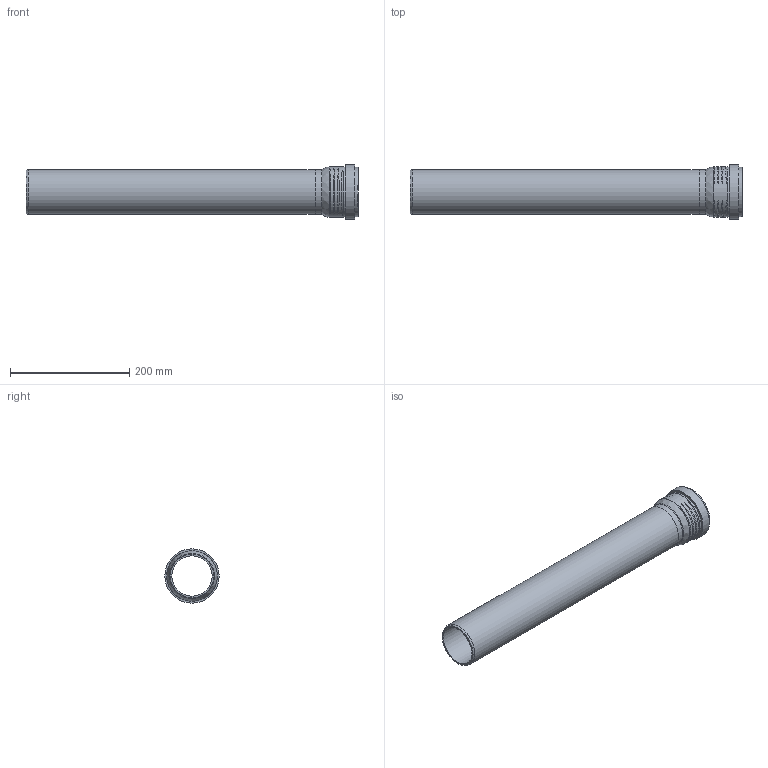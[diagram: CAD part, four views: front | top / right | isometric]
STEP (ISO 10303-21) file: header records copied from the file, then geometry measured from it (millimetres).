
FILE_DESCRIPTION(/* description */ (''),/* implementation_level */ '2;1');
FILE_NAME(/* name */ 'H:\Geberit-Teile\Export\PP_Rohr\stp\393302.stp',/* time_stamp */ '2017-02-13T16:06:11+01:00',/* author */ ('seihe2'),/* organization */ (''),/* preprocessor_version */ 'ST-DEVELOPER v15.2',/* originating_system */ 'Autodesk Inventor 2014',/* authorisation */ '');
FILE_SCHEMA (('AUTOMOTIVE_DESIGN { 1 0 10303 214 3 1 1 }'));
Length unit declared in the file: millimetre
Products named in the file (1): 393302
Bounding box: 555.7 x 91 x 91 mm (x, y, z)
Volume: 491013.5 mm3; surface area: 266746.2 mm2
Topology: 2 solids, 2 shells, 38 faces, 82 edges, 57 vertices
Faces by surface type: torus 16, cylinder 10, plane 8, cone 2, bspline 2
Full cylindrical faces by diameter (mm): 67.6 x2, 75.2 x2, 76 x1, 77.6 x1, 82.8 x1, 84.4 x1, 84.8 x1, 91 x1
Entity records: 2151 total; most frequent: CARTESIAN_POINT 1359, DIRECTION 132, ORIENTED_EDGE 130, EDGE_LOOP 68, AXIS2_PLACEMENT_3D 66, EDGE_CURVE 65, VERTEX_POINT 57, STYLED_ITEM 40
